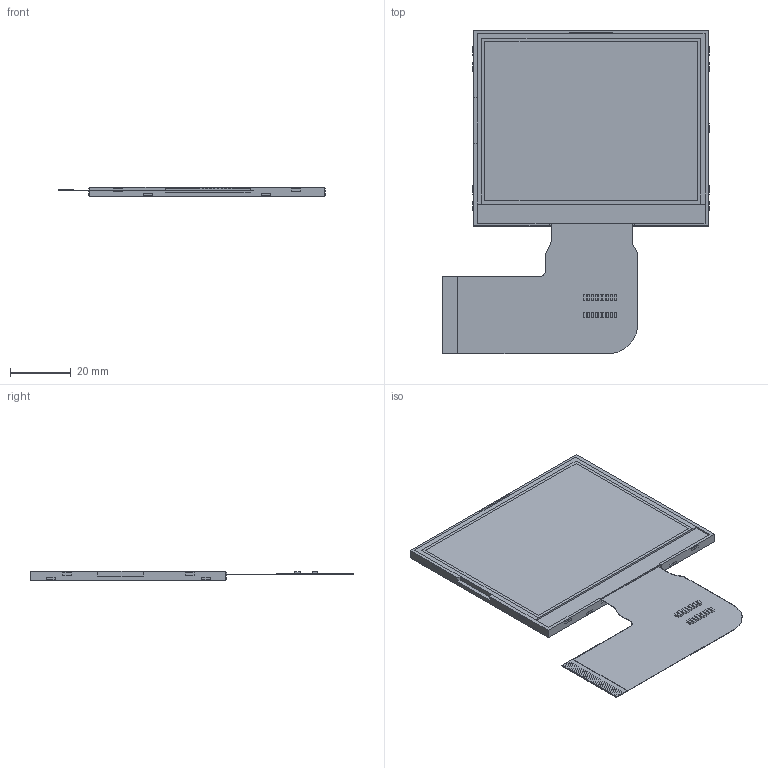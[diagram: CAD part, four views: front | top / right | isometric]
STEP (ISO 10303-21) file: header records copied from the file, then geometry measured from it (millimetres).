
FILE_DESCRIPTION (( 'STEP AP214' ), '1' );
FILE_NAME ('CFAF320240F-035T_With_Flex_Tail.STEP', '2019-08-15T18:59:21', ( '' ), ( '' ), 'SwSTEP 2.0', 'SolidWorks 2015', '' );
FILE_SCHEMA (( 'AUTOMOTIVE_DESIGN' ));
Length unit declared in the file: millimetre
Products named in the file (1): CFAF320240F-035T_With_Flex_Tail
Bounding box: 88 x 106.78 x 3 mm (x, y, z)
Volume: 15045.4 mm3; surface area: 15346.2 mm2
Topology: 1 solids, 1 shells, 428 faces, 1164 edges, 776 vertices
Faces by surface type: plane 422, cylinder 6
Entity records: 17786 total; most frequent: CARTESIAN_POINT 2369, ORIENTED_EDGE 2328, DIRECTION 2034, EDGE_CURVE 1164, VECTOR 1152, LINE 1152, VERTEX_POINT 776, EDGE_LOOP 466
